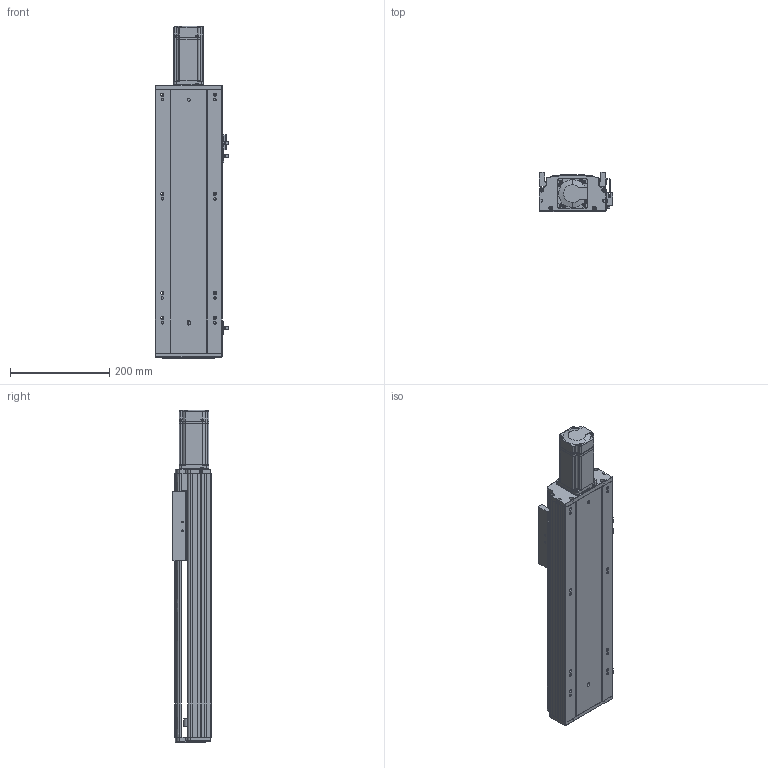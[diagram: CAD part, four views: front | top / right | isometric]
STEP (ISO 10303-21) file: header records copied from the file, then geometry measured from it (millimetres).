
FILE_DESCRIPTION (( 'STEP AP203' ), '1' );
FILE_NAME ('RY140Q-L2010-700-MK.SLDASM_0300.step', '2021-05-27T03:21:33', ( '盈信电脑' ), ( '东莞市道滘镇水果街19号' ), 'SwSTEP 2.0', 'SolidWorks 2016', '' );
FILE_SCHEMA (( 'CONFIG_CONTROL_DESIGN' ));
Length unit declared in the file: millimetre
Products named in the file (14): RY140ヶ裔啣; RY140Q萇儂傷盓傅釱FK12(80.5酗M5); 覜茼ん672; RY140綴裔啣; 侂狟400W侜督萇儂; 鞠褒坶踡蹟譫BK12 ; RY140Q臏賑輸(20佪裝-J); 滅袉蝶18-10; RY140Q-700-MK倰第菁釱_0300; 15; RY140Q-700-MK倰第奻裔啣_0300; RY120外置感应片(140共用）; 滅袉蝶18-15; RY140Q-L2010-700-MK.SLDASM_0300
Assembly tree (16 placements, depth 3):
  RY140Q-L2010-700-MK.SLDASM_0300
    RY140Q-700-MK倰第菁釱_0300
    RY140Q臏賑輸(20佪裝-J)
    RY140Q-700-MK倰第奻裔啣_0300
    RY140ヶ裔啣
    侂狟400W侜督萇儂
      15
    鞠褒坶踡蹟譫BK12 
    RY140綴裔啣
    覜茼ん672  x3
    RY120外置感应片(140共用）
    RY140Q萇儂傷盓傅釱FK12(80.5酗M5)
    滅袉蝶18-10
    滅袉蝶18-15  x2
Bounding box: 148.7 x 78 x 669.5 mm (x, y, z)
Volume: 2169685.9 mm3; surface area: 723075.2 mm2
Topology: 15 solids, 15 shells, 1999 faces, 5498 edges, 3537 vertices
Faces by surface type: plane 1078, cylinder 668, cone 168, bspline 85
Entity records: 66077 total; most frequent: CARTESIAN_POINT 15886, ORIENTED_EDGE 10352, DIRECTION 9810, EDGE_CURVE 5176, VERTEX_POINT 3397, LINE 3390, VECTOR 3390, AXIS2_PLACEMENT_3D 3210
